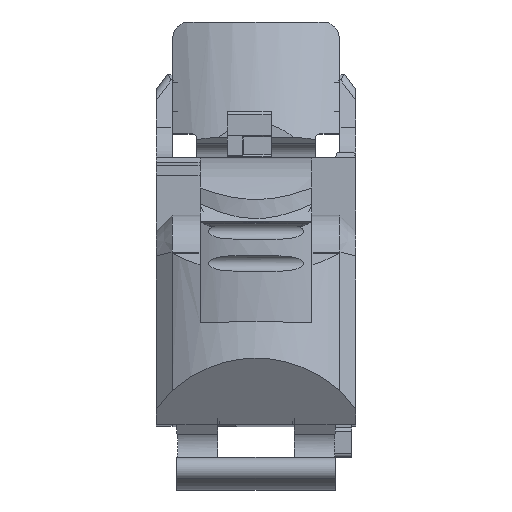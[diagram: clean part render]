
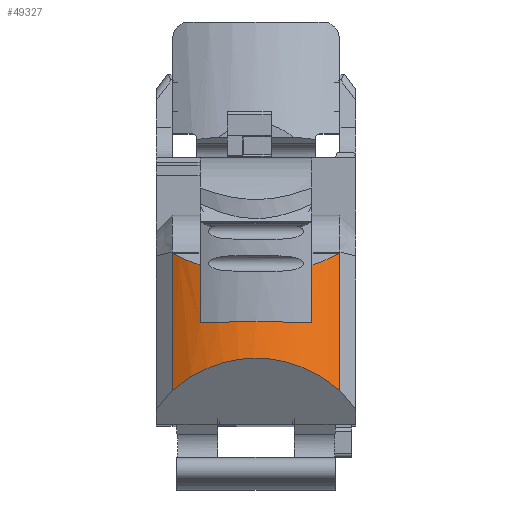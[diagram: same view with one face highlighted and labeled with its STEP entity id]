
A CAD part, top view. The second image highlights one B-rep face of the part: STEP entity #49327.
In plain terms, the highlighted cylindrical face has radius 9 mm (diameter 18 mm), a partial arc.
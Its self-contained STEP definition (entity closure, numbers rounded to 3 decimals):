
#111=DIRECTION('',(0.,0.974,-0.225));
#112=VECTOR('',#111,3.729);
#113=CARTESIAN_POINT('',(-3.5,-10.351,5.042));
#114=LINE('',#113,#112);
#522=DIRECTION('',(0.,-0.974,0.225));
#523=VECTOR('',#522,3.729);
#524=CARTESIAN_POINT('',(3.5,-6.717,4.203));
#525=LINE('',#524,#523);
#670=DIRECTION('',(0.,0.974,-0.225));
#671=VECTOR('',#670,8.822);
#672=CARTESIAN_POINT('',(5.25,-14.578,5.01));
#673=LINE('',#672,#671);
#719=CARTESIAN_POINT('',(-5.25,-14.578,5.01));
#720=CARTESIAN_POINT('',(-5.031,-14.39,5.128));
#721=CARTESIAN_POINT('',(-4.594,-14.048,5.341));
#722=CARTESIAN_POINT('',(-3.719,-13.486,5.693));
#723=CARTESIAN_POINT('',(-2.625,-12.978,6.01));
#724=CARTESIAN_POINT('',(-1.313,-12.628,6.229));
#725=CARTESIAN_POINT('',(0.,-12.513,6.3));
#726=CARTESIAN_POINT('',(1.313,-12.628,6.229));
#727=CARTESIAN_POINT('',(2.625,-12.978,6.01));
#728=CARTESIAN_POINT('',(3.719,-13.486,5.693));
#729=CARTESIAN_POINT('',(4.594,-14.048,5.341));
#730=CARTESIAN_POINT('',(5.031,-14.39,5.128));
#731=CARTESIAN_POINT('',(5.25,-14.578,5.01));
#19444=CARTESIAN_POINT('',(3.5,-10.351,5.042));
#19445=CARTESIAN_POINT('',(3.377,-10.345,
5.093));
#19446=CARTESIAN_POINT('',(3.129,-10.334,
5.192));
#19447=CARTESIAN_POINT('',(2.752,-10.319,
5.322));
#19448=CARTESIAN_POINT('',(2.369,-10.306,
5.436));
#19449=CARTESIAN_POINT('',(1.981,-10.295,
5.532));
#19450=CARTESIAN_POINT('',(1.589,-10.286,
5.612));
#19451=CARTESIAN_POINT('',(1.195,-10.279,
5.673));
#19452=CARTESIAN_POINT('',(0.798,-10.274,
5.718));
#19453=CARTESIAN_POINT('',(0.399,-10.271,
5.744));
#19454=CARTESIAN_POINT('',(0.,-10.27,
5.753));
#19455=CARTESIAN_POINT('',(-0.399,-10.271,
5.744));
#19456=CARTESIAN_POINT('',(-0.798,-10.274,
5.718));
#19457=CARTESIAN_POINT('',(-1.195,-10.279,
5.673));
#19458=CARTESIAN_POINT('',(-1.589,-10.286,
5.612));
#19459=CARTESIAN_POINT('',(-1.981,-10.295,
5.532));
#19460=CARTESIAN_POINT('',(-2.369,-10.306,
5.436));
#19461=CARTESIAN_POINT('',(-2.752,-10.319,
5.322));
#19462=CARTESIAN_POINT('',(-3.129,-10.334,
5.192));
#19463=CARTESIAN_POINT('',(-3.377,-10.345,
5.093));
#19464=CARTESIAN_POINT('',(-3.5,-10.351,5.042));
#19652=DIRECTION('',(0.,-0.974,0.225));
#19653=VECTOR('',#19652,8.822);
#19654=CARTESIAN_POINT('',(-5.25,-5.982,
3.026));
#19655=LINE('',#19654,#19653);
#19666=CARTESIAN_POINT('',(-3.5,-6.717,4.203));
#19667=CARTESIAN_POINT('',(-3.822,-6.616,
4.039));
#19668=CARTESIAN_POINT('',(-4.434,-6.389,
3.677));
#19669=CARTESIAN_POINT('',(-4.987,-6.124,
3.252));
#19670=CARTESIAN_POINT('',(-5.25,-5.982,3.026));
#19675=CARTESIAN_POINT('',(5.25,-5.982,3.026));
#19676=CARTESIAN_POINT('',(4.987,-6.124,
3.252));
#19677=CARTESIAN_POINT('',(4.434,-6.389,
3.677));
#19678=CARTESIAN_POINT('',(3.822,-6.616,
4.039));
#19679=CARTESIAN_POINT('',(3.5,-6.717,4.203));
#23359=CARTESIAN_POINT('',(-3.5,-10.351,5.042));
#23360=VERTEX_POINT('',#23359);
#23361=CARTESIAN_POINT('',(-3.5,-6.717,4.203));
#23362=VERTEX_POINT('',#23361);
#23726=CARTESIAN_POINT('',(-5.25,-14.578,5.01));
#23727=VERTEX_POINT('',#23726);
#23728=VERTEX_POINT('',#731);
#23731=CARTESIAN_POINT('',(-5.25,-5.982,
3.026));
#23732=VERTEX_POINT('',#23731);
#23747=CARTESIAN_POINT('',(3.5,-6.717,4.203));
#23748=VERTEX_POINT('',#23747);
#23749=CARTESIAN_POINT('',(3.5,-10.351,5.042));
#23750=VERTEX_POINT('',#23749);
#23784=VERTEX_POINT('',#19675);
#49309=CARTESIAN_POINT('',(0.,-18.344,-1.623));
#49310=DIRECTION('',(0.,-0.974,0.225));
#49311=DIRECTION('',(1.,0.,0.));
#49312=AXIS2_PLACEMENT_3D('',#49309,#49310,#49311);
#49313=CYLINDRICAL_SURFACE('',#49312,9.);
#49314=ORIENTED_EDGE('',*,*,#27573,.F.);
#49316=ORIENTED_EDGE('',*,*,#49315,.F.);
#49318=ORIENTED_EDGE('',*,*,#49317,.F.);
#49319=ORIENTED_EDGE('',*,*,#27088,.F.);
#49320=ORIENTED_EDGE('',*,*,#49246,.F.);
#49321=ORIENTED_EDGE('',*,*,#27368,.F.);
#49323=ORIENTED_EDGE('',*,*,#49322,.F.);
#49324=ORIENTED_EDGE('',*,*,#27542,.F.);
#49325=EDGE_LOOP('',(#49314,#49316,#49318,#49319,#49320,#49321,#49323,#49324));
#49326=FACE_OUTER_BOUND('',#49325,.F.);
#732=B_SPLINE_CURVE_WITH_KNOTS('',3,(#719,#720,#721,#722,#723,#724,#725,#726,
#727,#728,#729,#730,#731),.UNSPECIFIED.,.F.,.F.,(4,1,1,1,1,1,1,1,1,1,4),(0.,
0.063,0.125,0.25,0.375,0.5,0.625,0.75,0.875,0.938,1.),
.UNSPECIFIED.);
#19465=B_SPLINE_CURVE_WITH_KNOTS('',3,(#19444,#19445,#19446,#19447,#19448,
#19449,#19450,#19451,#19452,#19453,#19454,#19455,#19456,#19457,#19458,#19459,
#19460,#19461,#19462,#19463,#19464),.UNSPECIFIED.,.F.,.F.,(4,1,1,1,1,1,1,1,1,1,
1,1,1,1,1,1,1,1,4),(0.,0.056,0.111,0.167,
0.222,0.278,0.333,0.389,
0.444,0.5,0.556,0.611,0.667,
0.722,0.778,0.833,0.889,
0.944,1.),.UNSPECIFIED.);
#19671=B_SPLINE_CURVE_WITH_KNOTS('',3,(#19666,#19667,#19668,#19669,#19670),
.UNSPECIFIED.,.F.,.F.,(4,1,4),(0.,0.5,1.),.UNSPECIFIED.);
#19680=B_SPLINE_CURVE_WITH_KNOTS('',3,(#19675,#19676,#19677,#19678,#19679),
.UNSPECIFIED.,.F.,.F.,(4,1,4),(0.,0.5,1.),.UNSPECIFIED.);
#27088=EDGE_CURVE('',#23360,#23362,#114,.T.);
#27368=EDGE_CURVE('',#23748,#23750,#525,.T.);
#27542=EDGE_CURVE('',#23728,#23784,#673,.T.);
#27573=EDGE_CURVE('',#23727,#23728,#732,.T.);
#49246=EDGE_CURVE('',#23750,#23360,#19465,.T.);
#49315=EDGE_CURVE('',#23732,#23727,#19655,.T.);
#49317=EDGE_CURVE('',#23362,#23732,#19671,.T.);
#49322=EDGE_CURVE('',#23784,#23748,#19680,.T.);
#49327=ADVANCED_FACE('',(#49326),#49313,.T.);
